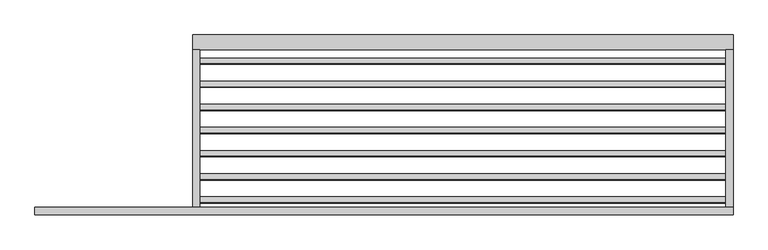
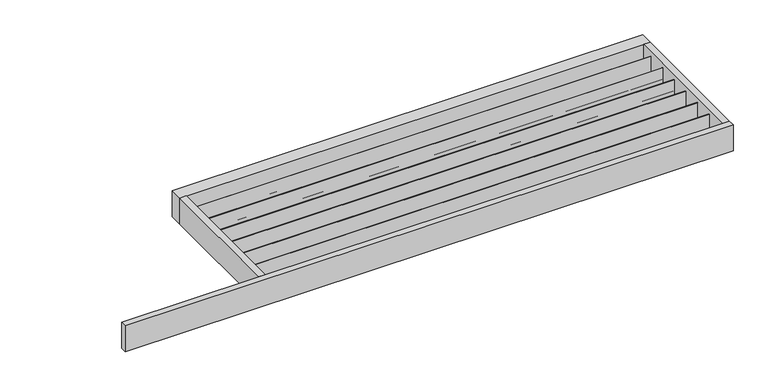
"""IFC4 building model written with IfcOpenShell, lengths in millimetres: proxy geometry, Renson_Amani_Canopy : Renson_Amani_Canopy."""

from ifc_helpers import new_model, si_unit, frame, origin, place, context, project, spatial, polyline, outline, extrude, source, transform, mapped, element, save


def generic_models_e3f605ce(model_context):
    return source(origin(), model_context, "Body", "SweptSolid", [
        extrude(outline(polyline([(-770.0, -99.0), (-770.0, -150.0), (-800.0, -150.0), (-800.0, -27.0), (-798.0, -27.0), (-798.0, -92.0), (-770.0, -99.0)])), frame((35.0, 0.0, 0.0), z_axis=(1.0, 0.0, 0.0), x_axis=(0.0, 1.0, 0.0)), (0.0, 0.0, 1.0), 2500.0),
        extrude(outline(polyline([(-660.0, -99.0), (-660.0, -150.0), (-690.0, -150.0), (-690.0, -27.0), (-688.0, -27.0), (-688.0, -92.0), (-660.0, -99.0)])), frame((35.0, 0.0, 0.0), z_axis=(1.0, 0.0, 0.0), x_axis=(0.0, 1.0, 0.0)), (0.0, 0.0, 1.0), 2500.0),
        extrude(outline(polyline([(-550.0, -99.0), (-550.0, -150.0), (-580.0, -150.0), (-580.0, -27.0), (-578.0, -27.0), (-578.0, -92.0), (-550.0, -99.0)])), frame((35.0, 0.0, 0.0), z_axis=(1.0, 0.0, 0.0), x_axis=(0.0, 1.0, 0.0)), (0.0, 0.0, 1.0), 2500.0),
        extrude(outline(polyline([(-440.0, -99.0), (-440.0, -150.0), (-470.0, -150.0), (-470.0, -27.0), (-468.0, -27.0), (-468.0, -92.0), (-440.0, -99.0)])), frame((35.0, 0.0, 0.0), z_axis=(1.0, 0.0, 0.0), x_axis=(0.0, 1.0, 0.0)), (0.0, 0.0, 1.0), 2500.0),
        extrude(outline(polyline([(-330.0, -99.0), (-330.0, -150.0), (-360.0, -150.0), (-360.0, -27.0), (-358.0, -27.0), (-358.0, -92.0), (-330.0, -99.0)])), frame((35.0, 0.0, 0.0), z_axis=(1.0, 0.0, 0.0), x_axis=(0.0, 1.0, 0.0)), (0.0, 0.0, 1.0), 2500.0),
        extrude(outline(polyline([(-220.0, -99.0), (-220.0, -150.0), (-250.0, -150.0), (-250.0, -27.0), (-248.0, -27.0), (-248.0, -92.0), (-220.0, -99.0)])), frame((35.0, 0.0, 0.0), z_axis=(1.0, 0.0, 0.0), x_axis=(0.0, 1.0, 0.0)), (0.0, 0.0, 1.0), 2500.0),
        extrude(outline(polyline([(-110.0, -99.0), (-110.0, -150.0), (-140.0, -150.0), (-140.0, -27.0), (-138.0, -27.0), (-138.0, -92.0), (-110.0, -99.0)])), frame((35.0, 0.0, 0.0), z_axis=(1.0, 0.0, 0.0), x_axis=(0.0, 1.0, 0.0)), (0.0, 0.0, 1.0), 2500.0),
        extrude(outline(polyline([(2570.0, -855.0), (-750.0, -855.0), (-750.0, -820.0), (2570.0, -820.0), (2570.0, -855.0)])), frame((0.0, 0.0, -150.0), z_axis=(0.0, 0.0, 1.0), x_axis=(1.0, 0.0, 0.0)), (0.0, 0.0, 1.0), 150.0),
        extrude(outline(polyline([(2570.0, -70.0), (2570.0, -820.0), (2535.0, -820.0), (2535.0, -70.0), (2570.0, -70.0)])), frame((0.0, 0.0, -150.0), z_axis=(0.0, 0.0, 1.0), x_axis=(1.0, 0.0, 0.0)), (0.0, 0.0, 1.0), 150.0),
        extrude(outline(polyline([(35.0, -70.0), (35.0, -820.0), (0.0, -820.0), (0.0, -70.0), (35.0, -70.0)])), frame((0.0, 0.0, -150.0), z_axis=(0.0, 0.0, 1.0), x_axis=(1.0, 0.0, 0.0)), (0.0, 0.0, 1.0), 150.0),
        extrude(outline(polyline([(2570.0, -70.0), (0.0, -70.0), (0.0, 0.0), (2570.0, 0.0), (2570.0, -70.0)])), frame((0.0, 0.0, -150.0), z_axis=(0.0, 0.0, 1.0), x_axis=(1.0, 0.0, 0.0)), (0.0, 0.0, 1.0), 150.0),
    ])


if __name__ == "__main__":
    model = new_model("IFC4")
    model_context = context("Model", 3, world=origin())
    ifc_project = project(units=[si_unit("LENGTHUNIT", "METRE", prefix="MILLI")], contexts=[model_context])
    site = spatial("IfcSite", under=ifc_project)
    building = spatial("IfcBuilding", under=site)
    placement = place(None, origin())
    generic_models_shape = generic_models_e3f605ce(model_context)
    element("IfcBuildingElementProxy", 1, Name="Renson_Amani_Canopy : Renson_Amani_Canopy", ObjectType="Renson_Amani_Canopy : Renson_Amani_Canopy", at=placement, inside=building, context=model_context, shape_type="MappedRepresentation", body=[
        mapped(generic_models_shape, transform((0.0, 0.0, 0.0), x_axis=(1.0, 0.0, 0.0), y_axis=(0.0, 1.0, 0.0), z_axis=(0.0, 0.0, 1.0))),
    ])
    save(model, "model.ifc")
